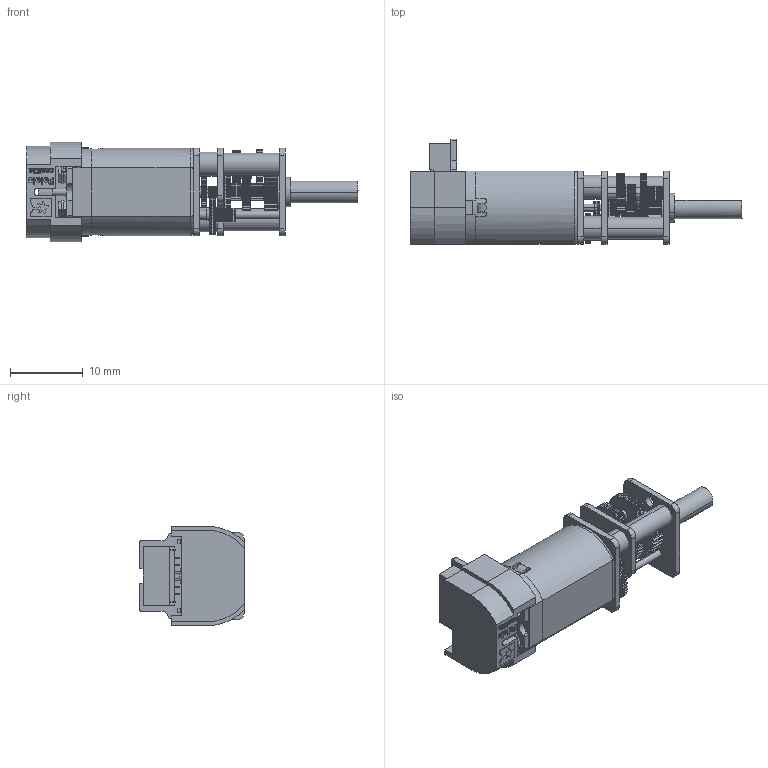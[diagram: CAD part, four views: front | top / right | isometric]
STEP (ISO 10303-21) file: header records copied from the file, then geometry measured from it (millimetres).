
FILE_DESCRIPTION (( 'STEP AP214' ), '1' );
FILE_NAME ('mmgm-1000-cb-enc03d-cas02.STEP', '2024-05-02T20:08:10', ( '' ), ( '' ), 'SwSTEP 2.0', 'SolidWorks 2023', '' );
FILE_SCHEMA (( 'AUTOMOTIVE_DESIGN' ));
Length unit declared in the file: inch
Products named in the file (1): mmgm-1000-cb-enc03d-cas02
Bounding box: 45.5 x 14.5 x 13.6 mm (x, y, z)
Volume: 2873.9 mm3; surface area: 3660 mm2
Topology: 1 solids, 3 shells, 3544 faces, 10455 edges, 6998 vertices
Faces by surface type: cylinder 1778, plane 1279, bspline 474, torus 7, cone 6
Entity records: 189720 total; most frequent: CARTESIAN_POINT 60691, ORIENTED_EDGE 20910, DIRECTION 12106, EDGE_CURVE 10455, VERTEX_POINT 6998, B_SPLINE_CURVE_WITH_KNOTS 5915, AXIS2_PLACEMENT_3D 4525, EDGE_LOOP 3691
